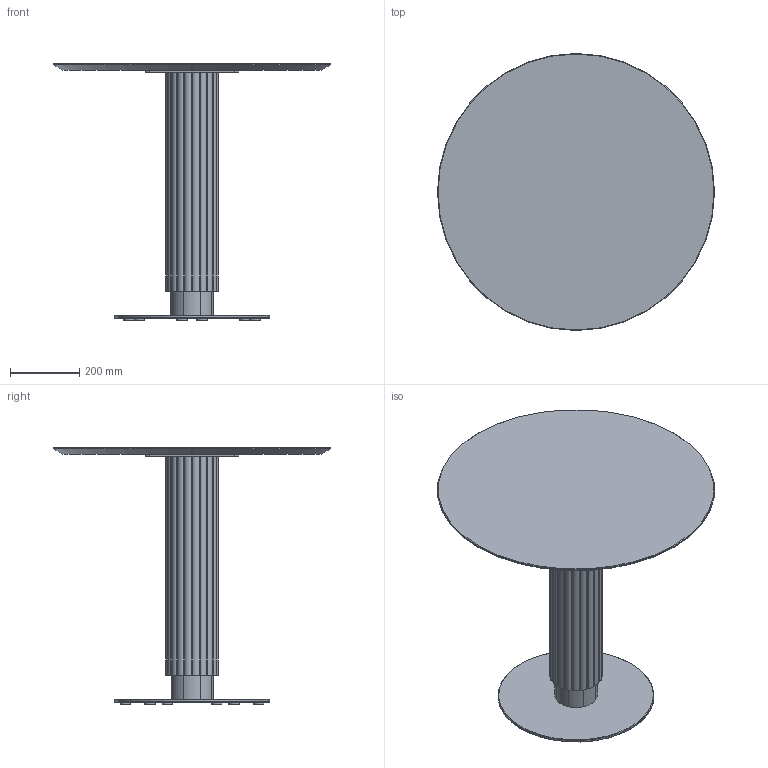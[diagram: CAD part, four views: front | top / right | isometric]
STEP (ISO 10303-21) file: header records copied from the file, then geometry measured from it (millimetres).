
FILE_DESCRIPTION( ('This file contains a STEP AP42 implementation' ,'as created by ZW3D STEP Interface translator.') ,'2;1' );
FILE_NAME( 'God - B_Rond - F1 - M5 - 800 x 800 x 750.stp' ,'24 912.113939', (''), ('ZWCAD Software Co.'), 'Version 1.0', 'ZW3D to STEP translator', '' );
FILE_SCHEMA(('AUTOMOTIVE_DESIGN { 1 0 10303 214 1 1 1 1 }'));
Length unit declared in the file: millimetre
Products named in the file (15): 0; PIED BISTROT PARAMETRIQUE_; SOCLE ACIER C Ø450 V.02_; SCL-D450-02_; PLA-R30A-01_; PLA-R30A-01; CROIX ACIER 370 V.02_; CRX-X370-02_; COLONNE ACIER Ø48.5 V.02_; TUB-D048-02_; PLA-R48A-01_; Colonne GODRON H700_; WUERTH 0276063020 Euro-screw 6.3x2 Verzinkt_; PLATEAU BISTROT PARAMETRIQUE_; insert_m6_13_
Assembly tree (25 placements, depth 3):
  0
  PIED BISTROT PARAMETRIQUE_
    SOCLE ACIER C Ø450 V.02_
      SCL-D450-02_
      PLA-R30A-01_
      PLA-R30A-01  x5
    CROIX ACIER 370 V.02_
      CRX-X370-02_
    COLONNE ACIER Ø48.5 V.02_
      TUB-D048-02_
      PLA-R48A-01_  x2
    Colonne GODRON H700_
    WUERTH 0276063020 Euro-screw 6.3x2 Verzinkt_
    PLATEAU BISTROT PARAMETRIQUE_
      insert_m6_13_  x8
Bounding box: 800 x 800 x 744 mm (x, y, z)
Volume: 21918170.8 mm3; surface area: 2775724.6 mm2
Topology: 29 solids, 29 shells, 656 faces, 1625 edges, 1042 vertices
Faces by surface type: plane 294, cylinder 193, bspline 121, cone 47, torus 1
Full cylindrical faces by diameter (mm): 4.88 x1, 6 x8, 6.3 x1, 8 x47, 12 x2, 14 x2, 30 x6, 44.5 x3, 48.5 x1, 450 x1
Entity records: 16234 total; most frequent: CARTESIAN_POINT 4039, DIRECTION 2249, ORIENTED_EDGE 2240, EDGE_CURVE 1120, AXIS2_PLACEMENT_3D 800, VERTEX_POINT 728, VECTOR 649, LINE 649
